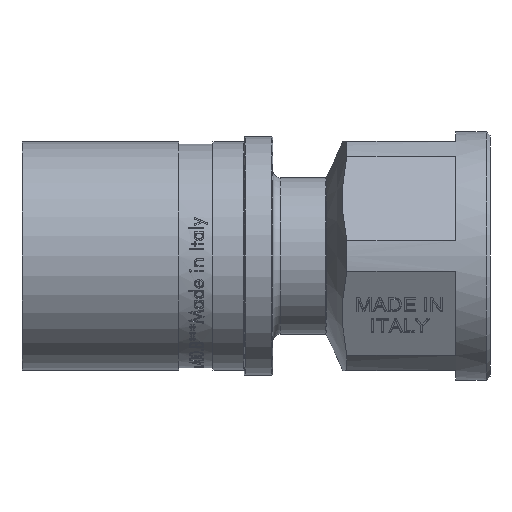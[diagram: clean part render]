
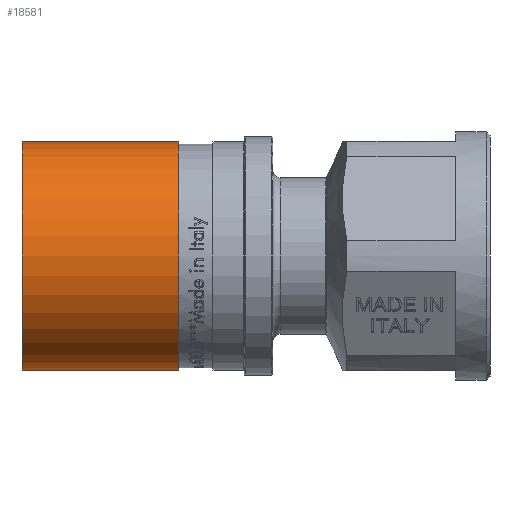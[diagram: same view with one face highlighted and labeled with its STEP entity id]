
A CAD part, front view. The second image highlights one B-rep face of the part: STEP entity #18581.
In plain terms, the highlighted cylindrical face has radius 14.925 mm (diameter 29.85 mm), a full revolution.
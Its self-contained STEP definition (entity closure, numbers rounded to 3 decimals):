
#1184=CIRCLE('',#19436,14.925);
#1185=CIRCLE('',#19437,14.925);
#1186=CIRCLE('',#19439,14.925);
#1187=CIRCLE('',#19440,14.925);
#2389=FACE_OUTER_BOUND('',#3487,.T.);
#3487=EDGE_LOOP('',(#17180,#17181,#17182,#17183,#17184,#17185));
#5894=LINE('',#40796,#7362);
#7362=VECTOR('',#22662,14.925);
#9111=VERTEX_POINT('',#40787);
#9112=VERTEX_POINT('',#40788);
#9113=VERTEX_POINT('',#40792);
#9114=VERTEX_POINT('',#40793);
#11834=EDGE_CURVE('',#9111,#9112,#1184,.T.);
#11835=EDGE_CURVE('',#9112,#9111,#1185,.T.);
#11836=EDGE_CURVE('',#9113,#9114,#1186,.T.);
#11837=EDGE_CURVE('',#9114,#9113,#1187,.T.);
#11838=EDGE_CURVE('',#9114,#9112,#5894,.T.);
#17180=ORIENTED_EDGE('',*,*,#11836,.F.);
#17181=ORIENTED_EDGE('',*,*,#11837,.F.);
#17182=ORIENTED_EDGE('',*,*,#11838,.T.);
#17183=ORIENTED_EDGE('',*,*,#11835,.T.);
#17184=ORIENTED_EDGE('',*,*,#11834,.T.);
#17185=ORIENTED_EDGE('',*,*,#11838,.F.);
#17612=CYLINDRICAL_SURFACE('',#19438,14.925);
#18581=ADVANCED_FACE('',(#2389),#17612,.T.);
#19436=AXIS2_PLACEMENT_3D('',#40789,#22652,#22653);
#19437=AXIS2_PLACEMENT_3D('',#40790,#22654,#22655);
#19438=AXIS2_PLACEMENT_3D('',#40791,#22656,#22657);
#19439=AXIS2_PLACEMENT_3D('',#40794,#22658,#22659);
#19440=AXIS2_PLACEMENT_3D('',#40795,#22660,#22661);
#22652=DIRECTION('center_axis',(1.,0.,0.));
#22653=DIRECTION('ref_axis',(0.,0.,-1.));
#22654=DIRECTION('center_axis',(1.,0.,0.));
#22655=DIRECTION('ref_axis',(0.,0.,-1.));
#22656=DIRECTION('center_axis',(1.,0.,0.));
#22657=DIRECTION('ref_axis',(0.,1.,0.));
#22658=DIRECTION('center_axis',(1.,0.,0.));
#22659=DIRECTION('ref_axis',(0.,0.,-1.));
#22660=DIRECTION('center_axis',(1.,0.,0.));
#22661=DIRECTION('ref_axis',(0.,0.,-1.));
#22662=DIRECTION('',(-1.,0.,0.));
#40787=CARTESIAN_POINT('',(-23.112,14.925,0.));
#40788=CARTESIAN_POINT('',(-23.112,-14.925,0.));
#40789=CARTESIAN_POINT('Origin',(-23.112,0.,0.));
#40790=CARTESIAN_POINT('Origin',(-23.112,0.,0.));
#40791=CARTESIAN_POINT('Origin',(-12.862,0.,0.));
#40792=CARTESIAN_POINT('',(-2.612,14.925,0.));
#40793=CARTESIAN_POINT('',(-2.612,-14.925,0.));
#40794=CARTESIAN_POINT('Origin',(-2.612,0.,0.));
#40795=CARTESIAN_POINT('Origin',(-2.612,0.,0.));
#40796=CARTESIAN_POINT('',(-12.862,-14.925,0.));
